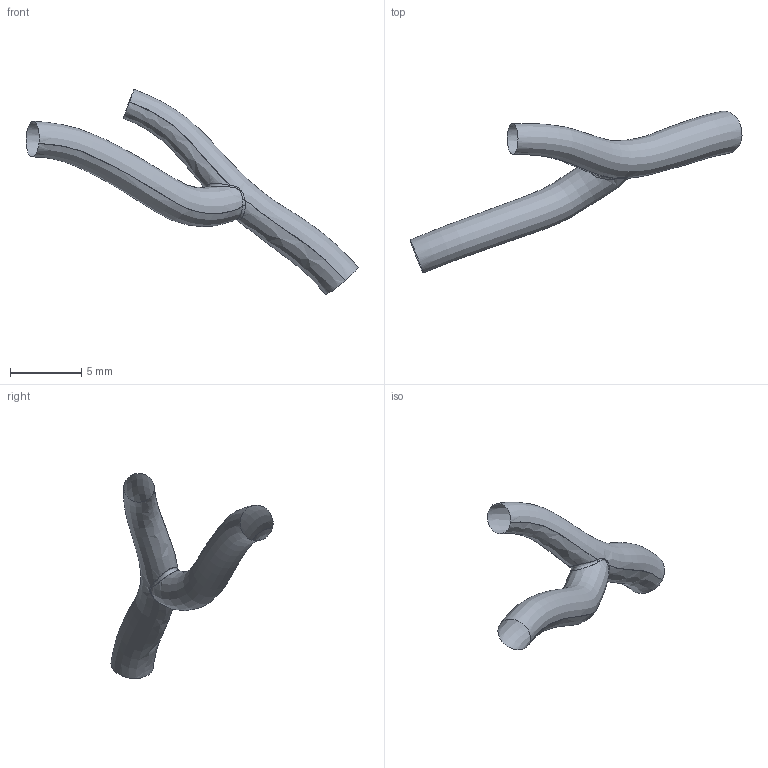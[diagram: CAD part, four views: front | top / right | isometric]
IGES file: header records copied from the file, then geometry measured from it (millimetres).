
Global section: file name: C:\Documents and Settings\Administrator\Desktop\FDA Bifurcation win\RawData_for_IGES\HRCA_Data\19990218.103146\IGES\19990218.103146.PDA.BIFUR.ED.igs; native system: Rhinoceros ( May 19 2006 ); preprocessor: Trout Lake IGES 012 May 19 2006; date: 100728.194707; units: centimetre
Bounding box: 23.34 x 11.39 x 14.42 mm (x, y, z)
Surface area: 293.6 mm2 (no closed solid volume)
Topology: 0 solids, 0 shells, 5 faces, 65 edges, 62 vertices
Faces by surface type: bspline 5
